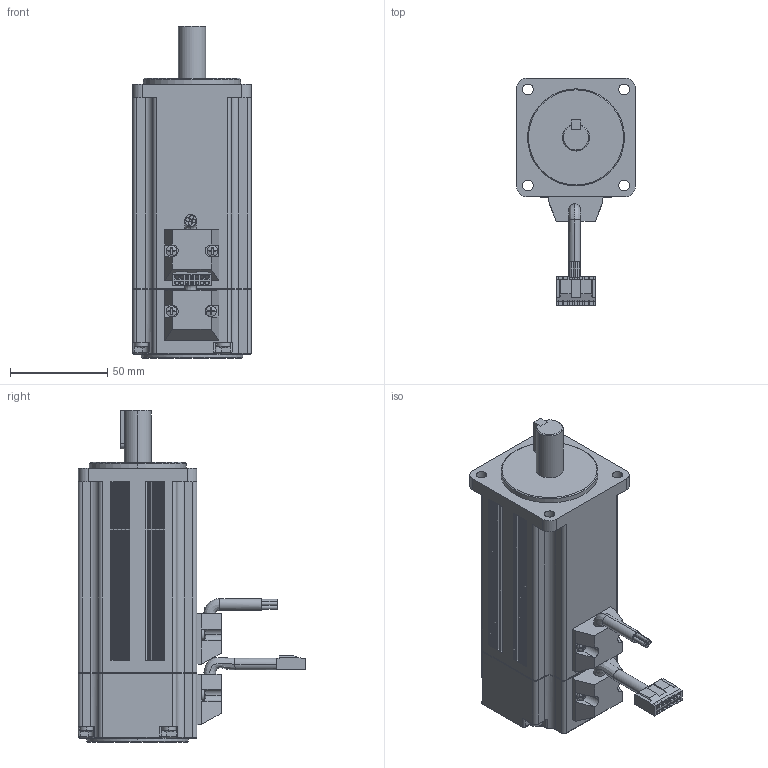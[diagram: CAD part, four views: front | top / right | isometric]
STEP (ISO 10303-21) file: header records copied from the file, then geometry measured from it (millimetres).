
FILE_DESCRIPTION (( 'STEP AP203' ), '1' );
FILE_NAME ('SE060AS-03.STEP', '2017-01-24T01:46:31', ( 'dell' ), ( 'Microsoft' ), 'SwSTEP 2.0', 'SolidWorks 2016', '' );
FILE_SCHEMA (( 'CONFIG_CONTROL_DESIGN' ));
Length unit declared in the file: millimetre
Products named in the file (9): cross recessed small pan head screws gb_GB_CROSS_SCREWS_TYPE3 M3X5-5-N; 諉脣璃; SE060AS-03; SE060AS300儂旯; 揤盄輸; 綴裔; 竘堤盄1; 竘堤盄2; cross recessed small pan head screws gb_GB_CROSS_SCREWS_TYPE3 M4X5-5-N
Assembly tree (15 placements, depth 2):
  SE060AS-03
    SE060AS300儂旯
    揤盄輸  x2
    綴裔
    竘堤盄1
    竘堤盄2
    cross recessed small pan head screws gb_GB_CROSS_SCREWS_TYPE3 M4X5-5-N  x4
    cross recessed small pan head screws gb_GB_CROSS_SCREWS_TYPE3 M3X5-5-N  x4
    諉脣璃
Bounding box: 61 x 117.03 x 171 mm (x, y, z)
Volume: 484360.1 mm3; surface area: 69532 mm2
Topology: 16 solids, 16 shells, 964 faces, 2427 edges, 1580 vertices
Faces by surface type: plane 575, cylinder 314, torus 30, bspline 24, sphere 16, cone 5
Entity records: 25448 total; most frequent: CARTESIAN_POINT 5108, DIRECTION 4059, ORIENTED_EDGE 3914, EDGE_CURVE 1957, AXIS2_PLACEMENT_3D 1379, LINE 1301, VECTOR 1301, VERTEX_POINT 1274
